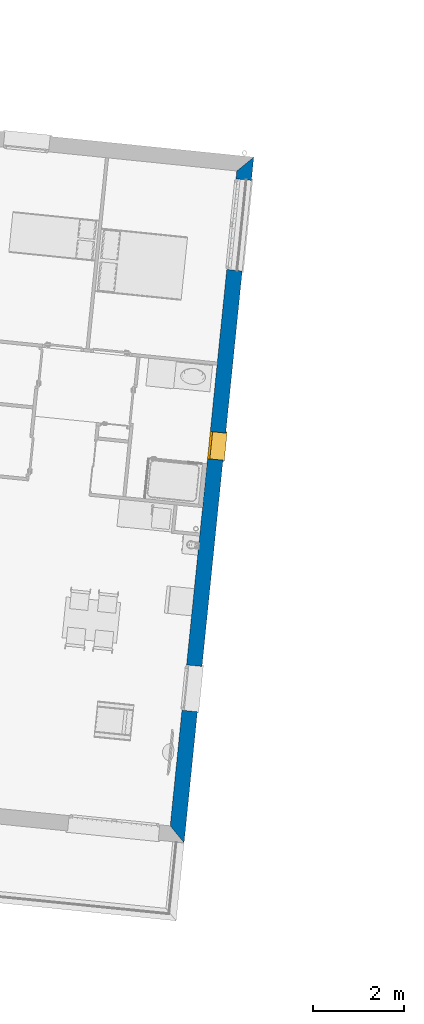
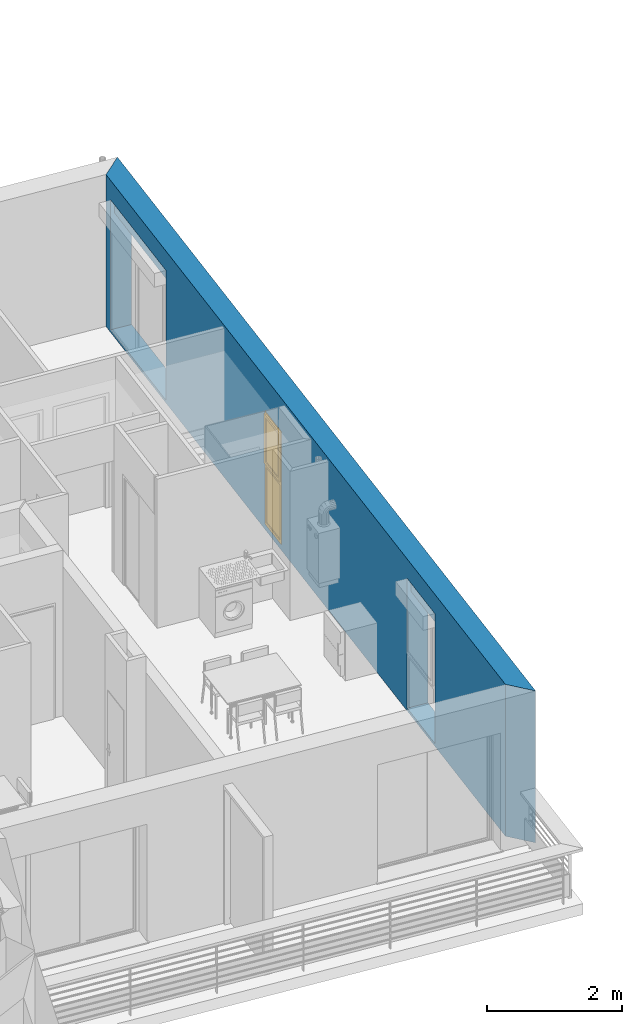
# One storey, part 57 of 164: 1 wall, 1 window, 3 openings.
"""IFC2X3 building model written with IfcOpenShell, lengths in millimetres."""

from ifc_helpers import new_model, entity, si_unit, converted_unit, derived_unit, money_unit, direction, frame, origin_with_axes, origin_2d_with_axis, place, context, subcontext, project, spatial, polyline, rectangle, outline, extrude, open_shell, faceted_brep, surface_model, source, transform, mapped, material, layer, layer_set, layer_usage, type_object, element, fill, save


model = new_model("IFC2X3")

# Units and contexts
model_context = context("Model", 3, precision=0.01, world=origin_with_axes(), true_north=direction((0.0, 1.0)))
body_context = subcontext(model_context, "Body", "Model", "MODEL_VIEW")
ifc_project = project(units=[si_unit("LENGTHUNIT", "METRE", prefix="MILLI"), si_unit("AREAUNIT", "SQUARE_METRE"), si_unit("VOLUMEUNIT", "CUBIC_METRE"), converted_unit("PLANEANGLEUNIT", "DEGREE", entity("IfcPlaneAngleMeasure", 0.0174532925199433), si_unit("PLANEANGLEUNIT", "RADIAN"), dimensions=[0, 0, 0, 0, 0, 0, 0]), money_unit("USD"), converted_unit("TIMEUNIT", "Year", entity("IfcTimeMeasure", 31557600.0), si_unit("TIMEUNIT", "SECOND"), dimensions=[0, 0, 1, 0, 0, 0, 0]), si_unit("MASSUNIT", "GRAM", prefix="KILO"), si_unit("THERMODYNAMICTEMPERATUREUNIT", "DEGREE_CELSIUS"), si_unit("LUMINOUSINTENSITYUNIT", "LUMEN"), si_unit("ENERGYUNIT", "JOULE", prefix="MEGA"), derived_unit("THERMALCONDUCTANCEUNIT", [(si_unit("POWERUNIT", "WATT"), 1), (si_unit("LENGTHUNIT", "METRE"), -1), (si_unit("THERMODYNAMICTEMPERATUREUNIT", "KELVIN"), -1)]), derived_unit("SPECIFICHEATCAPACITYUNIT", [(si_unit("ENERGYUNIT", "JOULE"), 1), (si_unit("MASSUNIT", "GRAM", prefix="KILO"), -1), (si_unit("THERMODYNAMICTEMPERATUREUNIT", "KELVIN"), -1)]), derived_unit("MASSDENSITYUNIT", [(si_unit("MASSUNIT", "GRAM", prefix="KILO"), 1), (si_unit("VOLUMEUNIT", "CUBIC_METRE"), -1)])], contexts=[model_context])

# Site, building, storey
site_placement = place(None, origin_with_axes())
site = spatial("IfcSite", under=ifc_project, at=site_placement, Name="Site", CompositionType="ELEMENT")
building_placement = place(site_placement, origin_with_axes())
building = spatial("IfcBuilding", under=site, at=building_placement, Name="Bâtiment", CompositionType="ELEMENT")
storey_placement = place(building_placement, frame((0.0, 0.0, 5750.0), z_axis=(0.0, 0.0, 1.0), x_axis=(1.0, 0.0, 0.0)))
storey = spatial("IfcBuildingStorey", under=building, at=storey_placement, Name="Etage1", CompositionType="ELEMENT", Elevation=5750.0)

# Wall, openings, window
ifc_material_1 = material(Name="Parpaing 312445824")
ifc_layer_1 = layer(ifc_material_1, 180.0, ventilated="UNKNOWN")
ifc_material_2 = material(Name="Isolant styromousse 301821074")
ifc_layer_2 = layer(ifc_material_2, 160.0, ventilated="UNKNOWN")
ifc_layer_set = layer_set([ifc_layer_1, ifc_layer_2], Name="isol int 18+16 0018356637")
ifc_layer_usage = layer_usage(ifc_layer_set, "AXIS2", "NEGATIVE", 0.0)
wall_type = type_object("IfcWallType", Name="isol int 18+16 0018356637 340", PredefinedType="NOTDEFINED")
wall_placement = place(storey_placement, frame((2240182.946874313, -606236.1516955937, 0.0), z_axis=(0.0, 0.0, 1.0), x_axis=(-0.1011032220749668, -0.9948759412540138, 0.0)))
wall = element("IfcWallStandardCase", 1, at=wall_placement, inside=storey, type_object=wall_type, material=ifc_layer_usage, Name="Mur-142", context=body_context, shape_type="SweptSolid", body=[
    extrude(outline(polyline([(340.0000000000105, -340.0000000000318), (14791.61370310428, -340.0000000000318), (15131.61370310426, -1.13686837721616e-10), (0.0, 0.0), (340.0000000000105, -340.0000000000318)])), origin_with_axes(), (0.0, 0.0, 1.0), 2750.0),
])
opening_1_placement = place(wall_placement, frame((6388.845141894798, -3.410605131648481e-10, 99.99999999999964), z_axis=(0.0, 0.0, 1.0), x_axis=(1.0, 0.0, 0.0)))
opening_1 = element("IfcOpeningElement", 2, at=opening_1_placement, cuts=wall, Name="Fen-133", context=body_context, shape_type="SweptSolid", body=[
    extrude(rectangle(XDim=599.9999999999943, YDim=2050.0, at=origin_2d_with_axis()), frame((0.0, -290.0000000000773, 1025.0), z_axis=(0.0, -1.0, 0.0), x_axis=(-1.0, 0.0, 0.0)), (0.0, 0.0, -1.0), 629.9999999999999),
    extrude(rectangle(XDim=599.9999999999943, YDim=2050.0, at=origin_2d_with_axis()), frame((0.0, -290.0000000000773, 1025.0), z_axis=(0.0, 1.0, 0.0), x_axis=(-1.0, 0.0, 0.0)), (0.0, 0.0, -1.0), 389.9999999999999),
])
opening_2_placement = place(wall_placement, frame((11739.30937232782, -3.410605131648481e-10, 49.99999999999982), z_axis=(0.0, 0.0, 1.0), x_axis=(1.0, 0.0, 0.0)))
element("IfcOpeningElement", 3, at=opening_2_placement, cuts=wall, Name="Fen-133", context=body_context, shape_type="Brep", body=[
    faceted_brep([(-500.0, -290.0000000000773, 2100.0), (-500.0000000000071, -279.999999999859, 2100.0), (-499.9999999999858, 1523.015834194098, 2100.0), (-499.9999999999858, 1523.015834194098, 0.0), (-499.9999999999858, -290.0000000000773, 0.0), (-499.9999999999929, -529.9999999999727, 2100.0), (-499.9999999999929, -529.9999999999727, 2350.0), (-500.0000000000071, -279.999999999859, 2350.0), (500.0, -279.9999999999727, 2100.0), (500.0000000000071, 1523.015834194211, 2100.0), (500.0000000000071, 1523.015834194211, 0.0), (500.0000000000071, -289.9999999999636, 0.0), (500.0, -1863.015834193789, 0.0), (-500.0, -1863.015834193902, 0.0), (-500.0, -1863.015834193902, 2100.0), (500.0000000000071, -529.9999999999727, 2100.0), (500.0000000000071, -529.9999999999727, 2350.0), (500.0, -279.9999999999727, 2350.0), (500.0, -289.9999999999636, 2100.0), (500.0, -1863.015834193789, 2100.0)], [[[0, 1, 2, 3, 4]], [[1, 0, 5, 6, 7]], [[1, 8, 9, 2]], [[9, 10, 3, 2]], [[4, 3, 10, 11, 12, 13]], [[5, 0, 4, 13, 14]], [[5, 15, 16, 6]], [[16, 17, 7, 6]], [[8, 1, 7, 17]], [[8, 18, 11, 10, 9]], [[18, 15, 19, 12, 11]], [[14, 13, 12, 19]], [[15, 5, 14, 19]], [[18, 8, 17, 16, 15]]]),
])
opening_3_placement = place(wall_placement, frame((1513.435922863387, -3.410605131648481e-10, 49.99999999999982), z_axis=(0.0, 0.0, 1.0), x_axis=(1.0, 0.0, 0.0)))
element("IfcOpeningElement", 4, at=opening_3_placement, cuts=wall, Name="Fen-207", context=body_context, shape_type="Brep", body=[
    faceted_brep([(-1000.0, -290.0000000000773, 2100.0), (-999.999999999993, -279.9999999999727, 2100.0), (-1000.000000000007, 1523.015834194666, 2100.0), (-1000.000000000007, 1523.015834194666, 0.0), (-999.999999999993, -290.0000000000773, 0.0), (-1000.0, -529.9999999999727, 2100.0), (-1000.0, -529.9999999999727, 2350.0), (-999.999999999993, -279.9999999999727, 2350.0), (1000.000000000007, -279.9999999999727, 2100.0), (1000.0, 1523.015834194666, 2100.0), (1000.0, 1523.015834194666, 0.0), (1000.0, -289.9999999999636, 0.0), (1000.000000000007, -1863.015834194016, 0.0), (-1000.0, -1863.015834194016, 0.0), (-1000.0, -1863.015834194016, 2100.0), (1000.0, -530.0000000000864, 2100.0), (1000.0, -530.0000000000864, 2350.0), (1000.000000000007, -279.9999999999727, 2350.0), (1000.0, -289.9999999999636, 2100.0), (1000.000000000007, -1863.015834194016, 2100.0)], [[[0, 1, 2, 3, 4]], [[1, 0, 5, 6, 7]], [[1, 8, 9, 2]], [[9, 10, 3, 2]], [[4, 3, 10, 11, 12, 13]], [[5, 0, 4, 13, 14]], [[5, 15, 16, 6]], [[7, 6, 16, 17]], [[8, 1, 7, 17]], [[8, 18, 11, 10, 9]], [[18, 15, 19, 12, 11]], [[14, 13, 12, 19]], [[15, 5, 14, 19]], [[18, 8, 17, 16, 15]]]),
])
window_style = type_object("IfcWindowStyle", Name="Fenêtre 27", ConstructionType="NOTDEFINED", OperationType="DOUBLE_PANEL_HORIZONTAL", ParameterTakesPrecedence=False, Sizeable=False)
shared_shape = source(origin_with_axes(), body_context, "Body", "SurfaceModel", [
    surface_model("IfcShellBasedSurfaceModel", [(300.0, -51.00000000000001, 40.00000000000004), (300.0, -51.00000000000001, 50.00000000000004), (-300.0, -51.00000000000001, 50.0), (-300.0, -51.00000000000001, 40.0), (329.9999999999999, -369.9999999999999, 28.96551724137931), (329.9999999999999, -339.9999999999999, 30.00324289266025), (300.0, -339.9999999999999, 30.00324289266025), (-300.0, -339.9999999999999, 30.00324289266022), (-329.9999999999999, -339.9999999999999, 30.00324289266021), (-329.9999999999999, -369.9999999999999, 28.96551724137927), (329.9999999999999, -369.9999999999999, 8.965517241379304), (-329.9999999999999, -369.9999999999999, 8.965517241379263), (329.9999999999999, -359.9999999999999, 18.96551724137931), (-329.9999999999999, -359.9999999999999, 18.96551724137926)], [open_shell([[[0, 1, 2, 3]], [[4, 5, 6, 0, 3, 7, 8, 9]], [[10, 4, 9, 11]], [[12, 10, 11, 13]]])]),
    faceted_brep([(-275.0, 0.0, 2000.0), (-300.0, 0.0, 2000.0), (-300.0, -50.00000000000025, 2000.0), (-250.0, -50.00000000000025, 2000.0), (-250.0, -25.00000000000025, 2000.0), (-275.0, -25.00000000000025, 2000.0), (-275.0, 0.0, 1125.0), (-250.0, 0.0, 1125.0), (-250.0, 0.0, 1050.0), (-250.0, 0.0, 50.00000000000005), (-300.0, 0.0, 50.00000000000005), (-300.0, -50.00000000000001, 50.00000000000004), (-250.0, -50.00000000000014, 1150.0), (-250.0, -50.00000000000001, 50.00000000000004), (-250.0, -50.00000000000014, 1050.0), (-250.0, -25.00000000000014, 1150.0), (-250.0, -25.00000000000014, 1125.0), (-275.0, -25.00000000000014, 1125.0)], [[[0, 1, 2, 3, 4, 5]], [[6, 7, 8, 9, 10, 1, 0]], [[1, 10, 11, 2]], [[12, 3, 2, 11, 13, 14]], [[4, 3, 12, 15]], [[15, 16, 17, 5, 4]], [[5, 17, 6, 0]], [[6, 17, 16, 7]], [[16, 15, 12, 14, 8, 7]], [[9, 8, 14, 13]], [[10, 9, 13, 11]]]),
    faceted_brep([(250.0, -25.00000000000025, 2000.0), (250.0, -50.00000000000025, 2000.0), (300.0, -50.00000000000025, 2000.0), (300.0, 0.0, 2000.0), (275.0, 0.0, 2000.0), (275.0, -25.00000000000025, 2000.0), (250.0, -25.00000000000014, 1150.0), (250.0, -50.00000000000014, 1150.0), (300.0, -50.00000000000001, 50.00000000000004), (250.0, -50.00000000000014, 1050.0), (250.0, -50.00000000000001, 50.00000000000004), (300.0, 0.0, 50.00000000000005), (275.0, 0.0, 1125.0), (250.0, 0.0, 50.00000000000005), (250.0, 0.0, 1050.0), (250.0, 0.0, 1125.0), (275.0, -25.00000000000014, 1125.0), (250.0, -25.00000000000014, 1125.0)], [[[0, 1, 2, 3, 4, 5]], [[6, 7, 1, 0]], [[8, 2, 1, 7, 9, 10]], [[11, 3, 2, 8]], [[12, 4, 3, 11, 13, 14, 15]], [[12, 16, 5, 4]], [[5, 16, 17, 6, 0]], [[17, 15, 14, 9, 7, 6]], [[14, 13, 10, 9]], [[13, 11, 8, 10]], [[15, 17, 16, 12]]]),
    faceted_brep([(-250.0, -25.00000000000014, 1150.0), (-250.0, -50.00000000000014, 1150.0), (250.0, -50.00000000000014, 1150.0), (250.0, -25.00000000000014, 1150.0), (-250.0, -25.00000000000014, 1125.0), (-250.0, 0.0, 1125.0), (-250.0, 0.0, 1050.0), (-250.0, -50.00000000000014, 1050.0), (250.0, -50.00000000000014, 1050.0), (250.0, -25.00000000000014, 1125.0), (250.0, 0.0, 1050.0), (250.0, 0.0, 1125.0)], [[[0, 1, 2, 3]], [[4, 5, 6, 7, 1, 0]], [[8, 2, 1, 7]], [[9, 3, 2, 8, 10, 11]], [[9, 4, 0, 3]], [[5, 4, 9, 11]], [[11, 10, 6, 5]], [[6, 10, 8, 7]]]),
    faceted_brep([(-275.0, 0.0, 2000.0), (-300.0, 0.0, 2000.0), (-300.0, 0.0, 2050.0), (300.0, 0.0, 2050.0), (300.0, 0.0, 2000.0), (275.0, 0.0, 2000.0), (275.0, 0.0, 2025.0), (-275.0, 0.0, 2025.0), (-275.0, -25.00000000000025, 2000.0), (-250.0, -25.00000000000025, 2000.0), (-250.0, -50.00000000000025, 2000.0), (-300.0, -50.00000000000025, 2000.0), (-300.0, -50.00000000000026, 2050.0), (300.0, -50.00000000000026, 2050.0), (300.0, -50.00000000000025, 2000.0), (275.0, -25.00000000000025, 2000.0), (250.0, -50.00000000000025, 2000.0), (250.0, -25.00000000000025, 2000.0), (275.0, -25.00000000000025, 2025.0), (-275.0, -25.00000000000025, 2025.0)], [[[0, 1, 2, 3, 4, 5, 6, 7]], [[8, 9, 10, 11, 1, 0]], [[2, 1, 11, 12]], [[3, 2, 12, 13]], [[4, 3, 13, 14]], [[15, 5, 4, 14, 16, 17]], [[5, 15, 18, 6]], [[6, 18, 19, 7]], [[7, 19, 8, 0]], [[17, 9, 8, 19, 18, 15]], [[17, 16, 10, 9]], [[14, 13, 12, 11, 10, 16]]]),
    faceted_brep([(-250.0, -50.00000000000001, 50.0), (-250.0, 0.0, 50.00000000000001), (-300.0, 0.0, 50.00000000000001), (-300.0, -50.00000000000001, 50.0), (250.0, -50.00000000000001, 50.0), (250.0, 0.0, 50.00000000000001), (300.0, 0.0, 50.00000000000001), (300.0, 0.0, 0.0), (-300.0, 0.0, 0.0), (-300.0, -50.0, 0.0), (300.0, -50.0, 0.0), (300.0, -50.00000000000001, 50.0)], [[[0, 1, 2, 3]], [[4, 5, 1, 0]], [[1, 5, 6, 7, 8, 2]], [[3, 2, 8, 9]], [[0, 3, 9, 10, 11, 4]], [[11, 6, 5, 4]], [[10, 7, 6, 11]], [[9, 8, 7, 10]]]),
    faceted_brep([(-225.0, -25.00000000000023, 1975.0), (-225.0, 24.99999999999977, 1975.0), (-275.0, 24.99999999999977, 1975.0), (-275.0, -25.00000000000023, 1975.0), (-225.0, -25.00000000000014, 1175.0), (-225.0, 24.99999999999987, 1175.0), (-275.0, 24.99999999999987, 1175.0), (-275.0, -25.00000000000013, 1175.0)], [[[0, 1, 2, 3]], [[4, 5, 1, 0]], [[1, 5, 6, 2]], [[3, 2, 6, 7]], [[0, 3, 7, 4]], [[7, 6, 5, 4]]]),
    faceted_brep([(225.0, -25.00000000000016, 1175.0), (225.0, 24.99999999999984, 1175.0), (275.0, 24.99999999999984, 1175.0), (275.0, -25.00000000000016, 1175.0), (225.0, -25.00000000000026, 1975.0), (225.0, 24.99999999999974, 1975.0), (275.0, 24.99999999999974, 1975.0), (275.0, -25.00000000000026, 1975.0)], [[[0, 1, 2, 3]], [[4, 5, 1, 0]], [[1, 5, 6, 2]], [[3, 2, 6, 7]], [[0, 3, 7, 4]], [[7, 6, 5, 4]]]),
    faceted_brep([(275.0, -25.00000000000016, 1125.0), (275.0, 24.99999999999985, 1125.0), (275.0, 24.99999999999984, 1175.0), (275.0, -25.00000000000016, 1175.0), (-275.0, -25.00000000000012, 1125.0), (-275.0, 24.99999999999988, 1125.0), (-275.0, 24.99999999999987, 1175.0), (-225.0, 24.99999999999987, 1175.0), (225.0, 24.99999999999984, 1175.0), (225.0, -25.00000000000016, 1175.0), (-225.0, -25.00000000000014, 1175.0), (-275.0, -25.00000000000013, 1175.0)], [[[0, 1, 2, 3]], [[4, 5, 1, 0]], [[1, 5, 6, 7, 8, 2]], [[3, 2, 8, 9]], [[0, 3, 9, 10, 11, 4]], [[11, 6, 5, 4]], [[10, 7, 6, 11]], [[9, 8, 7, 10]]]),
    faceted_brep([(-275.0, -25.00000000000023, 2025.0), (-275.0, 24.99999999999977, 2025.0), (-275.0, 24.99999999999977, 1975.0), (-275.0, -25.00000000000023, 1975.0), (275.0, -25.00000000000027, 2025.0), (275.0, 24.99999999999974, 2025.0), (275.0, 24.99999999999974, 1975.0), (225.0, 24.99999999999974, 1975.0), (-225.0, 24.99999999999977, 1975.0), (-225.0, -25.00000000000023, 1975.0), (225.0, -25.00000000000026, 1975.0), (275.0, -25.00000000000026, 1975.0)], [[[0, 1, 2, 3]], [[4, 5, 1, 0]], [[1, 5, 6, 7, 8, 2]], [[3, 2, 8, 9]], [[0, 3, 9, 10, 11, 4]], [[11, 6, 5, 4]], [[10, 7, 6, 11]], [[9, 8, 7, 10]]]),
    surface_model("IfcShellBasedSurfaceModel", [(-225.0, -10.00000000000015, 1175.0), (225.0, -10.00000000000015, 1175.0), (225.0, -10.00000000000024, 1975.0), (-225.0, -10.00000000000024, 1975.0)], [open_shell([[[0, 1, 2, 3]]])]),
    surface_model("IfcShellBasedSurfaceModel", [(-225.0, 9.999999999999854, 1175.0), (-225.0, 9.999999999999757, 1975.0), (225.0, 9.999999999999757, 1975.0), (225.0, 9.999999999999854, 1175.0)], [open_shell([[[0, 1, 2, 3]]])]),
    surface_model("IfcShellBasedSurfaceModel", [(-250.0, -35.0, 49.99999999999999), (250.0, -35.0, 49.99999999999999), (250.0, -35.00000000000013, 1050.0), (-250.0, -35.00000000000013, 1050.0)], [open_shell([[[0, 1, 2, 3]]])]),
    surface_model("IfcShellBasedSurfaceModel", [(-250.0, -15.0, 49.99999999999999), (-250.0, -15.00000000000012, 1050.0), (250.0, -15.00000000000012, 1050.0), (250.0, -15.0, 49.99999999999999)], [open_shell([[[0, 1, 2, 3]]])]),
])
window_placement = place(opening_1_placement, frame((299.9999999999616, 1.13686837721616e-10, 0.0), z_axis=(0.0, 0.0, 1.0), x_axis=(-1.0, 0.0, 0.0)))
window = element("IfcWindow", 5, at=window_placement, inside=storey, type_object=window_style, Name="Fen-133", OverallHeight=2050.0, OverallWidth=600.0, context=body_context, shape_type="MappedRepresentation", body=[
    mapped(shared_shape, transform((299.9999999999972, 339.9999999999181, 0.0))),
])
fill(opening_1, window)

save(model, "model.ifc")
